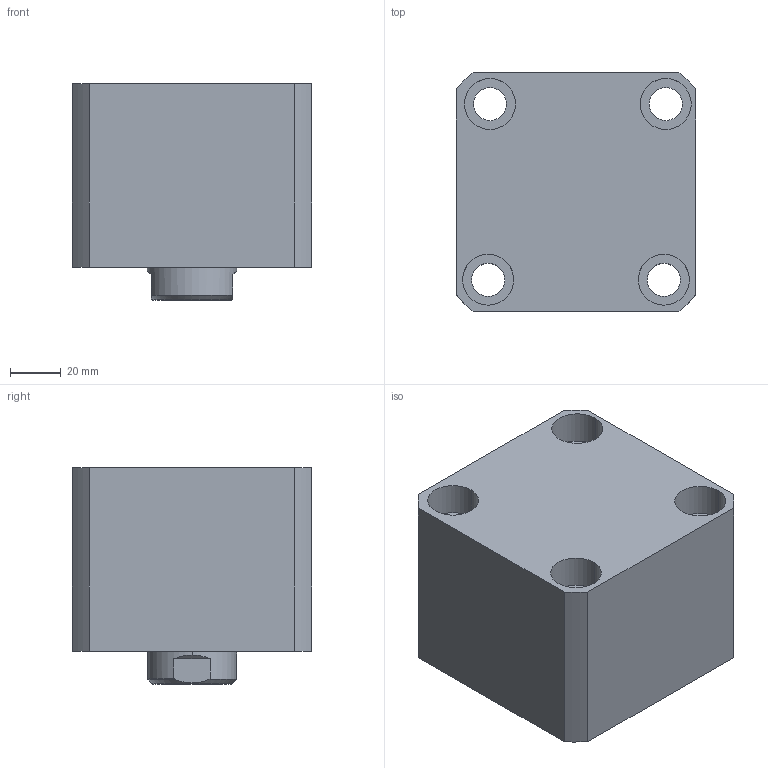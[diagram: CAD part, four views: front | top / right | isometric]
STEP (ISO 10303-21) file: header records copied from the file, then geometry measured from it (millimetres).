
FILE_DESCRIPTION (( 'STEP AP214' ), '1' );
FILE_NAME ('chtb-sdma63x5n_asm.STEP', '2018-05-16T02:19:30', ( 'Windows' ), ( 'Microsoft' ), 'SwSTEP 2.0', 'SolidWorks 2015', '' );
FILE_SCHEMA (( 'AUTOMOTIVE_DESIGN' ));
Length unit declared in the file: millimetre
Products named in the file (4): CHTB-SDMA63X5NBT; CHTB63X5NHSG; CHTB-63QG; chtb-sdma63x5n_asm
Assembly tree (3 placements, depth 2):
  chtb-sdma63x5n_asm
    CHTB-63QG
    CHTB63X5NHSG
    CHTB-SDMA63X5NBT
Bounding box: 94 x 94 x 85 mm (x, y, z)
Volume: 563310.8 mm3; surface area: 107455.7 mm2
Topology: 3 solids, 3 shells, 165 faces, 472 edges, 321 vertices
Faces by surface type: cylinder 107, plane 31, bspline 12, cone 8, torus 7
Entity records: 17727 total; most frequent: CARTESIAN_POINT 13576, ORIENTED_EDGE 932, DIRECTION 716, EDGE_CURVE 466, VERTEX_POINT 321, AXIS2_PLACEMENT_3D 288, EDGE_LOOP 197, ADVANCED_FACE 165
